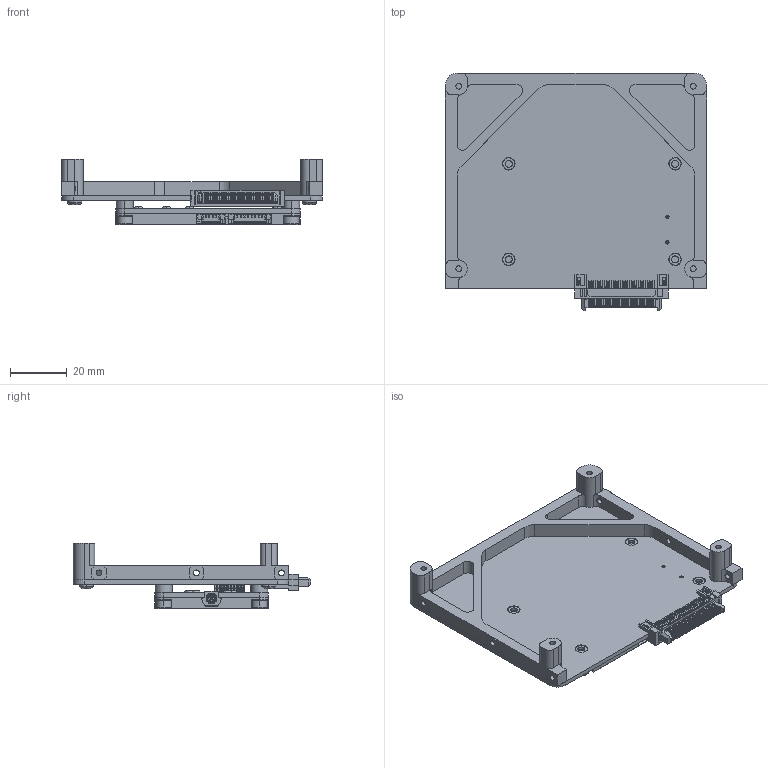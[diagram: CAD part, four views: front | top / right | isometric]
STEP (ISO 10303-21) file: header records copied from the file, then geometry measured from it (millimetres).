
FILE_DESCRIPTION (( 'STEP AP214' ), '1' );
FILE_NAME ('040400_001_COMSB.STEP', '2026-11-16T13:41:58', ( '' ), ( '' ), 'SwSTEP 2.0', 'SolidWorks 2024', '' );
FILE_SCHEMA (( 'AUTOMOTIVE_DESIGN' ));
Length unit declared in the file: millimetre
Products named in the file (16): 9774030360_CMP-00629-1_Standard; 53261-04_ax100-b; MCX-J-P-H-ST-EM1_ax100-3; 040900_STR_004_COMSBFrame_Outside; SAMTEC_FSI-110-03-X-D-AD-TR_CMP-093-000000-2_Standard; 040400_ELE_001_COM-SB_Standard; ax100OutLine_ax100-3(Default); 999999_COTS_004_Nanocom_AX100_Standard; 999999_COTS_ISO_7380-1_M2.5x06; Shield_ax100-3-NEWLOGO(Default); 040400_001_COMSB; PanHead_ISO7045(M016-04); 040400_ELE_001_COM-SB_BOARD_Standard; 999999_COTS_ISO_14579_M3x06_Standard; SAMTEC_ERM8-030-01-X-D-EM2-SL-XX_CMP-043-000000-8; 53261-08_ax100-b
Assembly tree (35 placements, depth 3):
  040400_001_COMSB
    040400_ELE_001_COM-SB_Standard
      040400_ELE_001_COM-SB_BOARD_Standard
      9774030360_CMP-00629-1_Standard  x4
      SAMTEC_FSI-110-03-X-D-AD-TR_CMP-093-000000-2_Standard
      SAMTEC_ERM8-030-01-X-D-EM2-SL-XX_CMP-043-000000-8
    040900_STR_004_COMSBFrame_Outside
    999999_COTS_004_Nanocom_AX100_Standard
      ax100OutLine_ax100-3(Default)
      MCX-J-P-H-ST-EM1_ax100-3
      53261-04_ax100-b
      53261-08_ax100-b
      Shield_ax100-3-NEWLOGO(Default)
      PanHead_ISO7045(M016-04)  x12
    999999_COTS_ISO_7380-1_M2.5x06  x4
    999999_COTS_ISO_14579_M3x06_Standard  x4
Bounding box: 92.3 x 83.85 x 23.02 mm (x, y, z)
Volume: 28602.4 mm3; surface area: 40918.4 mm2
Topology: 41 solids, 41 shells, 6430 faces, 18536 edges, 12200 vertices
Faces by surface type: plane 3811, cylinder 2455, bspline 71, cone 69, torus 24
Entity records: 258010 total; most frequent: CARTESIAN_POINT 45692, ORIENTED_EDGE 35088, DIRECTION 29712, EDGE_CURVE 17544, VECTOR 12202, LINE 12202, VERTEX_POINT 11586, AXIS2_PLACEMENT_3D 8755
